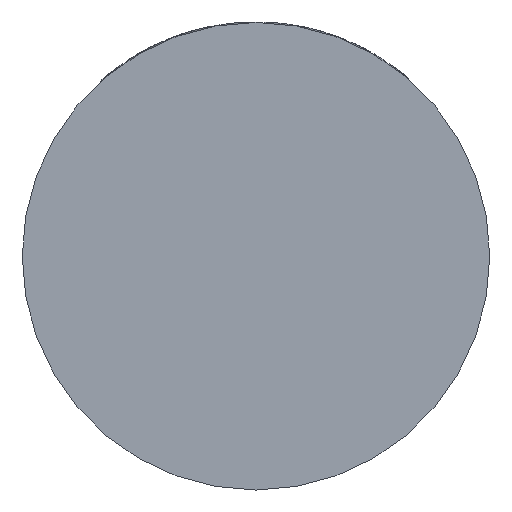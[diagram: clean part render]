
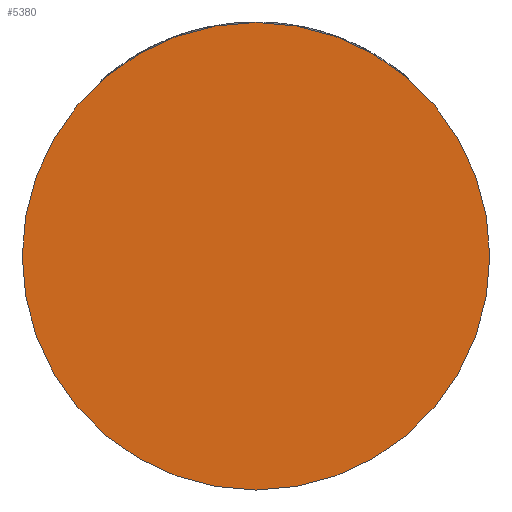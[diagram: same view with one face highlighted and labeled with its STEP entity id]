
A CAD part, front view. The second image highlights one B-rep face of the part: STEP entity #5380.
In plain terms, the highlighted planar face has unit normal (0, -1, 0).
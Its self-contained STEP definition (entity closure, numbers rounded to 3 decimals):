
#208=PLANE('',#5713);
#627=FACE_OUTER_BOUND('',#955,.T.);
#955=EDGE_LOOP('',(#4979));
#1836=CIRCLE('',#5705,53.);
#2628=VERTEX_POINT('',#11391);
#3416=EDGE_CURVE('',#2628,#2628,#1836,.T.);
#4979=ORIENTED_EDGE('',*,*,#3416,.T.);
#5380=ADVANCED_FACE('',(#627),#208,.F.);
#5705=AXIS2_PLACEMENT_3D('',#11392,#6716,#6717);
#5713=AXIS2_PLACEMENT_3D('',#11402,#6732,#6733);
#6716=DIRECTION('center_axis',(0.,-1.,0.));
#6717=DIRECTION('ref_axis',(1.,0.,0.));
#6732=DIRECTION('center_axis',(0.,1.,0.));
#6733=DIRECTION('ref_axis',(0.,0.,1.));
#11391=CARTESIAN_POINT('',(-53.,0.,0.));
#11392=CARTESIAN_POINT('Origin',(0.,0.,0.));
#11402=CARTESIAN_POINT('Origin',(0.,0.,0.));
